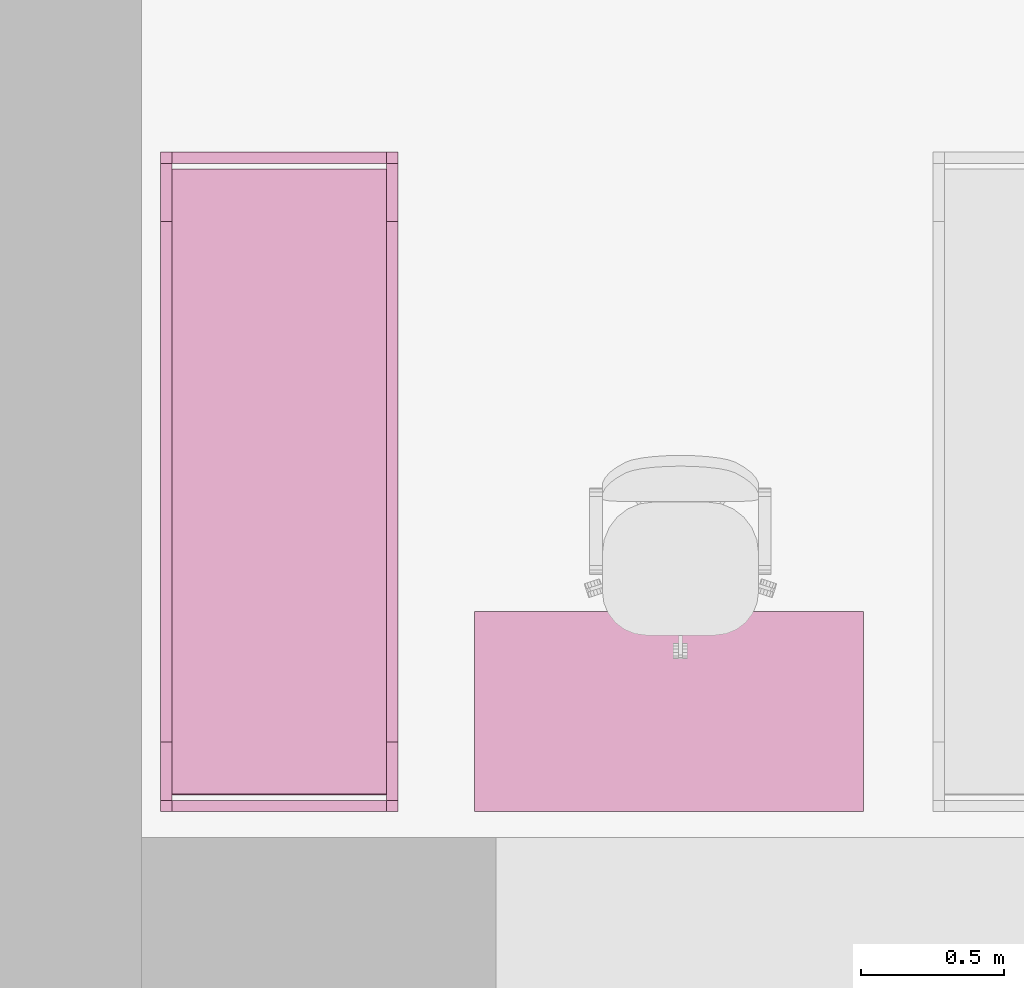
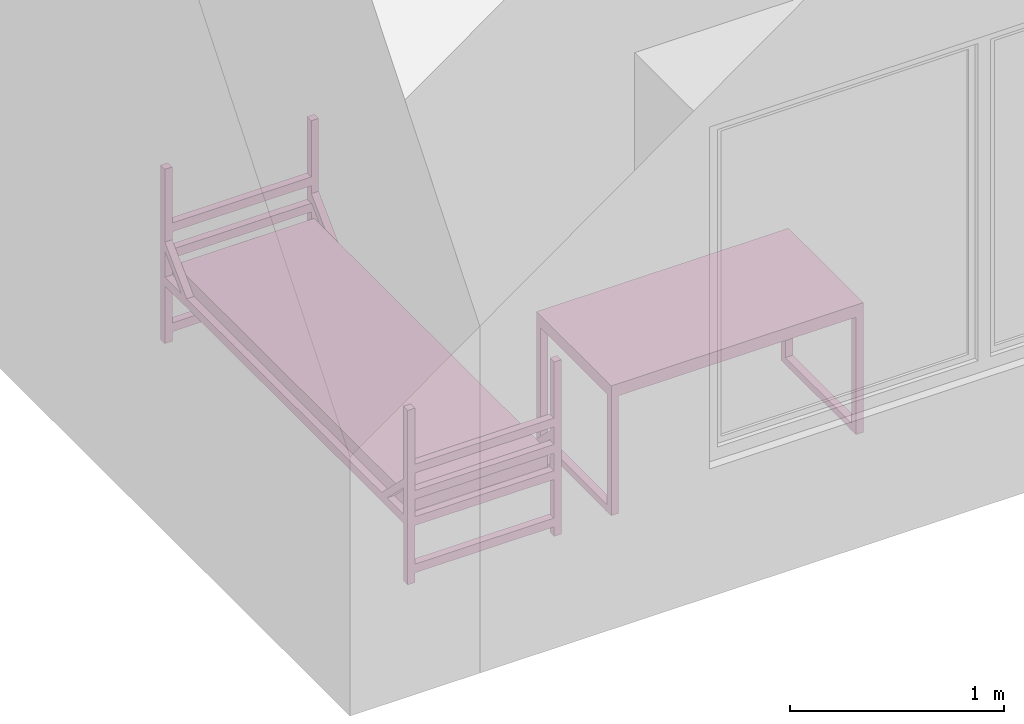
# One storey, part 22 of 48: 2 furnishings.
"""IFC2X3 building model written with IfcOpenShell, lengths in millimetres."""

from ifc_helpers import new_model, entity, si_unit, converted_unit, derived_unit, direction, frame, frame_2d, origin, place, context, subcontext, project, spatial, polyline, circle_curve, parameter, trimmed, segment, composite_curve, rectangle, outline, extrude, faceted_brep, source, transform, mapped, material, material_list, type_object, type_shapes, element, save


model = new_model("IFC2X3")

# Units and contexts
model_context = context("Model", 3, precision=0.01, world=origin(), true_north=direction((6.12303176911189e-17, 1.0)))
body_context = subcontext(model_context, "Body", "Model", "MODEL_VIEW")
ifc_project = project(units=[si_unit("LENGTHUNIT", "METRE", prefix="MILLI"), si_unit("AREAUNIT", "SQUARE_METRE"), si_unit("VOLUMEUNIT", "CUBIC_METRE"), converted_unit("PLANEANGLEUNIT", "DEGREE", entity("IfcRatioMeasure", 0.0174532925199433), si_unit("PLANEANGLEUNIT", "RADIAN"), dimensions=[0, 0, 0, 0, 0, 0, 0]), si_unit("MASSUNIT", "GRAM", prefix="KILO"), derived_unit("MASSDENSITYUNIT", [(si_unit("MASSUNIT", "GRAM", prefix="KILO"), 1), (si_unit("LENGTHUNIT", "METRE"), -3)]), si_unit("TIMEUNIT", "SECOND"), si_unit("FREQUENCYUNIT", "HERTZ"), si_unit("THERMODYNAMICTEMPERATUREUNIT", "DEGREE_CELSIUS"), derived_unit("THERMALTRANSMITTANCEUNIT", [(si_unit("MASSUNIT", "GRAM", prefix="KILO"), 1), (si_unit("THERMODYNAMICTEMPERATUREUNIT", "KELVIN"), -1), (si_unit("TIMEUNIT", "SECOND"), -3)]), derived_unit("VOLUMETRICFLOWRATEUNIT", [(si_unit("LENGTHUNIT", "METRE"), 3), (si_unit("TIMEUNIT", "SECOND"), -1)]), si_unit("ELECTRICCURRENTUNIT", "AMPERE"), si_unit("ELECTRICVOLTAGEUNIT", "VOLT"), si_unit("POWERUNIT", "WATT"), si_unit("FORCEUNIT", "NEWTON", prefix="KILO"), si_unit("ILLUMINANCEUNIT", "LUX"), si_unit("LUMINOUSFLUXUNIT", "LUMEN"), si_unit("LUMINOUSINTENSITYUNIT", "CANDELA"), derived_unit("USERDEFINED", [(si_unit("MASSUNIT", "GRAM", prefix="KILO"), -1), (si_unit("LENGTHUNIT", "METRE"), -2), (si_unit("TIMEUNIT", "SECOND"), 3), (si_unit("LUMINOUSFLUXUNIT", "LUMEN"), 1)]), derived_unit("LINEARVELOCITYUNIT", [(si_unit("LENGTHUNIT", "METRE"), 1), (si_unit("TIMEUNIT", "SECOND"), -1)]), si_unit("PRESSUREUNIT", "PASCAL"), derived_unit("USERDEFINED", [(si_unit("LENGTHUNIT", "METRE"), -2), (si_unit("MASSUNIT", "GRAM", prefix="KILO"), 1), (si_unit("TIMEUNIT", "SECOND"), -2)]), derived_unit("LINEARFORCEUNIT", [(si_unit("MASSUNIT", "GRAM", prefix="KILO"), 1), (si_unit("LENGTHUNIT", "METRE"), 1), (si_unit("TIMEUNIT", "SECOND"), -2), (si_unit("LENGTHUNIT", "METRE"), -1)]), derived_unit("PLANARFORCEUNIT", [(si_unit("MASSUNIT", "GRAM", prefix="KILO"), 1), (si_unit("LENGTHUNIT", "METRE"), 1), (si_unit("TIMEUNIT", "SECOND"), -2), (si_unit("LENGTHUNIT", "METRE"), -2)])], contexts=[model_context])

# Site, building, storey, space
site_placement = place(None, origin())
site = spatial("IfcSite", under=ifc_project, at=site_placement, Name="Default", CompositionType="ELEMENT")
building_placement = place(site_placement, origin())
building = spatial("IfcBuilding", under=site, at=building_placement, Name="SMA ARH", CompositionType="ELEMENT")
storey_placement = place(building_placement, frame((0.0, 0.0, 3300.0)))
storey = spatial("IfcBuildingStorey", under=building, at=storey_placement, Name="2 Korrus", CompositionType="ELEMENT", Elevation=3299.99999999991)
space_placement = place(storey_placement, origin())
space = spatial("IfcSpace", under=storey, at=space_placement, Name="2-15", CompositionType="ELEMENT", InteriorOrExteriorSpace="INTERNAL")

# Furnishings
ifc_material_1 = material(Name="Madrats")
furniture_type_1 = type_object("IfcFurnitureType", Name="Kasarmu voodi ühekordne 2308x830:Kasarmu voodi ühekordne 2308x830", material=ifc_material_1)
shared_shape_1 = source(origin(), body_context, "Body", "SweptSolid", [
    extrude(rectangle(XDim=39.9999999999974, YDim=750.000000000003, at=frame_2d((-1.35003119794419e-13, -2.8421709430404e-14), x_axis=(1.0, 0.0))), frame((1.68638457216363, -1226.7969571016, 55.0), z_axis=(0.0, 0.0, 1.0), x_axis=(0.0, -1.0, 0.0)), (0.0, 0.0, 1.0), 49.9999999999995),
    extrude(rectangle(XDim=39.9999999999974, YDim=750.000000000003, at=frame_2d((-1.35003119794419e-13, -2.8421709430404e-14), x_axis=(1.0, 0.0))), frame((1.68638457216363, -1226.7969571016, 325.0), z_axis=(0.0, 0.0, 1.0), x_axis=(0.0, -1.0, 0.0)), (0.0, 0.0, 1.0), 49.9999999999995),
    extrude(rectangle(XDim=39.9999999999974, YDim=750.000000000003, at=frame_2d((-1.35003119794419e-13, -2.8421709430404e-14), x_axis=(1.0, 0.0))), frame((1.68638457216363, -1226.7969571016, 475.0), z_axis=(0.0, 0.0, 1.0), x_axis=(0.0, -1.0, 0.0)), (0.0, 0.0, 1.0), 49.9999999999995),
    extrude(rectangle(XDim=39.9999999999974, YDim=750.000000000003, at=frame_2d((-1.35003119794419e-13, -2.8421709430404e-14), x_axis=(1.0, 0.0))), frame((1.68638457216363, -1226.7969571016, 625.0), z_axis=(0.0, 0.0, 1.0), x_axis=(0.0, -1.0, 0.0)), (0.0, 0.0, 1.0), 50.0000000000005),
    extrude(rectangle(XDim=39.9999999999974, YDim=750.000000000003, at=frame_2d((1.35003119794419e-13, -2.8421709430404e-14), x_axis=(1.0, 0.0))), frame((1.68638457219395, 1041.2030428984, 55.0), z_axis=(0.0, 0.0, 1.0), x_axis=(0.0, -1.0, 0.0)), (0.0, 0.0, 1.0), 50.0000000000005),
    extrude(rectangle(XDim=39.9999999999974, YDim=750.000000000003, at=frame_2d((1.35003119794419e-13, -2.8421709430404e-14), x_axis=(1.0, 0.0))), frame((1.68638457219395, 1041.2030428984, 325.0), z_axis=(0.0, 0.0, 1.0), x_axis=(0.0, -1.0, 0.0)), (0.0, 0.0, 1.0), 50.0000000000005),
    extrude(rectangle(XDim=39.9999999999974, YDim=750.000000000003, at=frame_2d((1.35003119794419e-13, -2.8421709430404e-14), x_axis=(1.0, 0.0))), frame((1.68638457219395, 1041.2030428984, 475.0), z_axis=(0.0, 0.0, 1.0), x_axis=(0.0, -1.0, 0.0)), (0.0, 0.0, 1.0), 50.0000000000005),
    extrude(rectangle(XDim=39.9999999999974, YDim=750.000000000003, at=frame_2d((1.35003119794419e-13, -2.8421709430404e-14), x_axis=(1.0, 0.0))), frame((1.68638457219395, 1041.2030428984, 625.0), z_axis=(0.0, 0.0, 1.0), x_axis=(0.0, -1.0, 0.0)), (0.0, 0.0, 1.0), 49.9999999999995),
    extrude(outline(composite_curve([segment(trimmed(circle_curve(frame_2d((1085.0, -40.0), x_axis=(1.0, 0.0)), 10.0), [parameter(270.0)], [parameter(0.0)], True, "PARAMETER"), True, "CONTINUOUS"), segment(polyline([(1095.0, -40.0), (1095.0, 40.0)]), True, "CONTINUOUS"), segment(trimmed(circle_curve(frame_2d((1085.0, 40.0), x_axis=(1.0, 0.0)), 10.0), [parameter(0.0)], [parameter(90.0000000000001)], True, "PARAMETER"), True, "CONTINUOUS"), segment(polyline([(1085.0, 50.0), (-1085.0, 50.0)]), True, "CONTINUOUS"), segment(trimmed(circle_curve(frame_2d((-1085.0, 40.0), x_axis=(1.0, 0.0)), 10.0), [parameter(90.0000000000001)], [parameter(180.0)], True, "PARAMETER"), True, "CONTINUOUS"), segment(polyline([(-1095.0, 40.0), (-1095.0, -40.0)]), True, "CONTINUOUS"), segment(trimmed(circle_curve(frame_2d((-1085.0, -40.0), x_axis=(1.0, 0.0)), 10.0), [parameter(180.0)], [parameter(270.0)], True, "PARAMETER"), True, "CONTINUOUS"), segment(polyline([(-1085.0, -50.0), (1085.0, -50.0)]), True, "CONTINUOUS")], self_intersect=False)), frame((-373.313615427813, -92.7969571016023, 405.0), z_axis=(1.0, 0.0, 0.0), x_axis=(0.0, -1.0, 0.0)), (0.0, 0.0, 1.0), 750.000000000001),
    extrude(outline(polyline([(-1114.0, -100.0), (1114.0, -100.0), (1114.0, -50.0), (961.59199141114, -50.0), (1114.0, 100.0), (1114.0, 150.0), (910.789321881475, -50.0), (-910.789321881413, -50.0), (-1114.0, 150.0), (-1114.0, 100.0), (-961.591991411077, -50.0), (-1114.0, -50.0), (-1114.0, -100.0)])), frame((-413.313615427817, -92.7969571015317, 430.0), z_axis=(1.0, 0.0, 0.0), x_axis=(0.0, 1.0, 0.0)), (0.0, 0.0, 1.0), 39.9999999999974),
    extrude(outline(polyline([(-1114.0, -100.0), (1114.0, -100.0), (1114.0, -50.0), (961.591991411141, -50.0), (1114.0, 100.0), (1114.0, 150.0), (910.789321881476, -50.0), (-910.789321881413, -50.0), (-1114.0, 150.0), (-1114.0, 100.0), (-961.591991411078, -50.0), (-1114.0, -50.0), (-1114.0, -100.0)])), frame((376.686384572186, -92.796957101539, 430.0), z_axis=(1.0, 0.0, 0.0), x_axis=(0.0, 1.0, 0.0)), (0.0, 0.0, 1.0), 39.9999999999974),
    extrude(rectangle(XDim=39.9999999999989, YDim=39.9999999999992, at=frame_2d((-6.75015598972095e-14, 0.0), x_axis=(1.0, 0.0))), frame((396.686384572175, -1226.79695710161, 0.0), z_axis=(0.0, 0.0, 1.0), x_axis=(0.0, 1.0, 0.0)), (0.0, 0.0, 1.0), 995.0),
    extrude(rectangle(XDim=39.9999999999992, YDim=39.9999999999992, at=frame_2d((-1.35003119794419e-13, 0.0), x_axis=(1.0, 0.0))), frame((396.686384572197, 1041.20304289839, 0.0), z_axis=(0.0, 0.0, 1.0), x_axis=(0.0, 1.0, 0.0)), (0.0, 0.0, 1.0), 995.0),
    extrude(rectangle(XDim=40.0000000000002, YDim=39.9999999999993, at=frame_2d((-1.35003119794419e-13, 0.0), x_axis=(1.0, 0.0))), frame((-393.313615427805, 1041.2030428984, 0.0), z_axis=(0.0, 0.0, 1.0), x_axis=(0.0, 1.0, 0.0)), (0.0, 0.0, 1.0), 995.0),
    extrude(rectangle(XDim=39.9999999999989, YDim=39.9999999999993, at=frame_2d((-6.75015598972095e-14, 0.0), x_axis=(1.0, 0.0))), frame((-393.313615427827, -1226.7969571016, 0.0), z_axis=(0.0, 0.0, 1.0), x_axis=(0.0, 1.0, 0.0)), (0.0, 0.0, 1.0), 995.0),
])
type_shapes(furniture_type_1, [shared_shape_1])
furnishing_1_placement = place(space_placement, frame((480.0, 1336.79695710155, 0.0)))
element("IfcFurnishingElement", 1, at=furnishing_1_placement, inside=space, type_object=furniture_type_1, material=ifc_material_1, Name="Kasarmu voodi ühekordne 2308x830:Kasarmu voodi ühekordne 2308x830", ObjectType="Kasarmu voodi ühekordne 2308x830:Kasarmu voodi ühekordne 2308x830", context=body_context, shape_type="MappedRepresentation", body=[
    mapped(shared_shape_1, transform((0.0, 0.0, 0.0), scale=1.0)),
])
ifc_material_2 = material(Name="<Unnamed>")
ifc_material_list = material_list([ifc_material_2, ifc_material_2])
furniture_type_2 = type_object("IfcFurnitureType", Name="kirjutuslaud 1360x700mm:kirjutuslaud 1360x700mm", material=ifc_material_list)
shared_shape_2 = source(origin(), body_context, "Body", "Brep", [
    faceted_brep([(680.0, -350.0, 720.0), (680.0, 350.0, 720.0), (680.0, 350.0, 750.0), (680.0, -350.0, 750.0), (-680.0, -350.0, 720.0), (-680.0, -350.0, 750.0), (-680.0, 350.0, 750.0), (-680.0, 350.0, 720.0)], [[[0, 1, 2, 3]], [[4, 5, 6, 7]], [[1, 0, 4, 7]], [[2, 1, 7, 6]], [[3, 2, 6, 5]], [[0, 3, 5, 4]]]),
    faceted_brep([(-640.0, -310.0, 680.0), (-640.0, 310.0, 680.0), (-640.0, 310.0, 720.0), (-640.0, -310.0, 720.0), (-680.0, -350.0, 720.0), (-680.0, 350.0, 720.0), (-680.0, 350.0, 10.0), (-680.0, -350.0, 10.0), (-680.0, 310.0, 680.0), (-680.0, -310.0, 680.0), (-680.0, -310.0, 50.0), (-680.0, 310.0, 50.0), (-640.0, -350.0, 10.0), (-640.0, -350.0, 680.0), (640.0, -350.0, 680.0), (640.0, -350.0, 10.0), (680.0, -350.0, 10.0), (680.0, -350.0, 720.0), (-640.0, 350.0, 10.0), (680.0, 350.0, 720.0), (680.0, 350.0, 10.0), (640.0, 350.0, 10.0), (640.0, 350.0, 680.0), (-640.0, 350.0, 680.0), (640.0, 310.0, 720.0), (640.0, -310.0, 720.0), (-640.0, 310.0, 50.0), (-640.0, -310.0, 50.0), (640.0, -310.0, 680.0), (640.0, 310.0, 680.0), (680.0, 310.0, 680.0), (680.0, 310.0, 50.0), (680.0, -310.0, 50.0), (680.0, -310.0, 680.0), (640.0, -310.0, 50.0), (640.0, 310.0, 50.0)], [[[0, 1, 2, 3]], [[4, 5, 6, 7], [8, 9, 10, 11]], [[4, 7, 12, 13, 14, 15, 16, 17]], [[18, 12, 7, 6]], [[6, 5, 19, 20, 21, 22, 23, 18]], [[19, 5, 4, 17], [2, 24, 25, 3]], [[26, 1, 8, 11]], [[27, 26, 11, 10]], [[0, 27, 10, 9]], [[1, 0, 9, 8]], [[14, 13, 0, 28]], [[24, 2, 1, 29]], [[3, 25, 28, 0]], [[17, 16, 20, 19], [30, 31, 32, 33]], [[21, 15, 14, 28, 34, 35, 29, 22]], [[20, 16, 15, 21]], [[31, 30, 29, 35]], [[32, 31, 35, 34]], [[33, 32, 34, 28]], [[30, 33, 28, 29]], [[29, 28, 25, 24]], [[29, 1, 23, 22]], [[12, 18, 23, 1, 26, 27, 0, 13]]]),
    faceted_brep([(-663.729456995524, -270.466136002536, 0.0), (-659.847171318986, -269.955023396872, 0.0), (-655.964885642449, -270.466136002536, 0.0), (-652.347171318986, -271.964642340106, 0.0), (-649.240569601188, -274.348421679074, 0.0), (-646.85679026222, -277.455023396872, 0.0), (-645.35828392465, -281.072737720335, 0.0), (-644.847171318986, -284.955023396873, 0.0), (-645.35828392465, -288.83730907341, 0.0), (-646.85679026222, -292.455023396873, 0.0), (-649.240569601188, -295.561625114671, 0.0), (-652.347171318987, -297.945404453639, 0.0), (-655.964885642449, -299.443910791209, 0.0), (-659.847171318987, -299.955023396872, 0.0), (-663.729456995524, -299.443910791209, 0.0), (-667.347171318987, -297.945404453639, 0.0), (-670.453773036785, -295.561625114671, 0.0), (-672.837552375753, -292.455023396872, 0.0), (-674.336058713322, -288.83730907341, 0.0), (-674.847171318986, -284.955023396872, 0.0), (-674.336058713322, -281.072737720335, 0.0), (-672.837552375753, -277.455023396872, 0.0), (-670.453773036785, -274.348421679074, 0.0), (-667.347171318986, -271.964642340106, 0.0), (-655.964885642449, -299.443910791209, 10.0), (-652.347171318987, -297.945404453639, 10.0), (-649.240569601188, -295.561625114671, 10.0), (-646.85679026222, -292.455023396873, 10.0), (-645.35828392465, -288.83730907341, 10.0), (-644.847171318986, -284.955023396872, 10.0), (-645.35828392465, -281.072737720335, 10.0), (-646.85679026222, -277.455023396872, 10.0), (-649.240569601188, -274.348421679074, 10.0), (-652.347171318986, -271.964642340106, 10.0), (-655.964885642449, -270.466136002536, 10.0), (-659.847171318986, -269.955023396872, 10.0), (-663.729456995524, -270.466136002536, 10.0), (-667.347171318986, -271.964642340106, 10.0), (-670.453773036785, -274.348421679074, 10.0), (-672.837552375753, -277.455023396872, 10.0), (-674.336058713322, -281.072737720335, 10.0), (-674.847171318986, -284.955023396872, 10.0), (-674.336058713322, -288.83730907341, 10.0), (-672.837552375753, -292.455023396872, 10.0), (-670.453773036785, -295.561625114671, 10.0), (-667.347171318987, -297.945404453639, 10.0), (-663.729456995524, -299.443910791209, 10.0), (-659.847171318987, -299.955023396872, 10.0)], [[[0, 1, 2, 3, 4, 5, 6, 7, 8, 9, 10, 11, 12, 13, 14, 15, 16, 17, 18, 19, 20, 21, 22, 23]], [[24, 25, 26, 27, 28, 29, 30, 31, 32, 33, 34, 35, 36, 37, 38, 39, 40, 41, 42, 43, 44, 45, 46, 47]], [[18, 42, 41, 19]], [[17, 43, 42, 18]], [[45, 44, 16, 15]], [[17, 16, 44, 43]], [[46, 45, 15, 14]], [[47, 46, 14, 13]], [[12, 24, 47, 13]], [[11, 25, 24, 12]], [[27, 26, 10, 9]], [[11, 10, 26, 25]], [[28, 27, 9, 8]], [[29, 28, 8, 7]], [[6, 30, 29, 7]], [[5, 31, 30, 6]], [[33, 32, 4, 3]], [[5, 4, 32, 31]], [[34, 33, 3, 2]], [[35, 34, 2, 1]], [[0, 36, 35, 1]], [[23, 37, 36, 0]], [[39, 38, 22, 21]], [[23, 22, 38, 37]], [[40, 39, 21, 20]], [[41, 40, 20, 19]]]),
    faceted_brep([(-655.964885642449, 270.466136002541, 10.0), (-652.347171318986, 271.964642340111, 10.0), (-649.240569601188, 274.348421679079, 10.0), (-646.85679026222, 277.455023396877, 10.0), (-645.35828392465, 281.07273772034, 10.0), (-644.847171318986, 284.955023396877, 10.0), (-645.35828392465, 288.837309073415, 10.0), (-646.85679026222, 292.455023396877, 10.0), (-649.240569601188, 295.561625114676, 10.0), (-652.347171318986, 297.945404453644, 10.0), (-655.964885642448, 299.443910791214, 10.0), (-659.847171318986, 299.955023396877, 10.0), (-663.729456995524, 299.443910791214, 10.0), (-667.347171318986, 297.945404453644, 10.0), (-670.453773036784, 295.561625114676, 10.0), (-672.837552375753, 292.455023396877, 10.0), (-674.336058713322, 288.837309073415, 10.0), (-674.847171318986, 284.955023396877, 10.0), (-674.336058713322, 281.07273772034, 10.0), (-672.837552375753, 277.455023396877, 10.0), (-670.453773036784, 274.348421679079, 10.0), (-667.347171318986, 271.964642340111, 10.0), (-663.729456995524, 270.466136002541, 10.0), (-659.847171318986, 269.955023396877, 10.0), (-655.964885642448, 299.443910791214, 0.0), (-652.347171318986, 297.945404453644, 0.0), (-649.240569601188, 295.561625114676, 0.0), (-646.85679026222, 292.455023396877, 0.0), (-645.35828392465, 288.837309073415, 0.0), (-644.847171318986, 284.955023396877, 0.0), (-645.35828392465, 281.07273772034, 0.0), (-646.85679026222, 277.455023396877, 0.0), (-649.240569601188, 274.348421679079, 0.0), (-652.347171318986, 271.964642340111, 0.0), (-655.964885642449, 270.466136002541, 0.0), (-659.847171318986, 269.955023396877, 0.0), (-663.729456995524, 270.466136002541, 0.0), (-667.347171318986, 271.964642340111, 0.0), (-670.453773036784, 274.348421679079, 0.0), (-672.837552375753, 277.455023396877, 0.0), (-674.336058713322, 281.07273772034, 0.0), (-674.847171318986, 284.955023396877, 0.0), (-674.336058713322, 288.837309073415, 0.0), (-672.837552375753, 292.455023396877, 0.0), (-670.453773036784, 295.561625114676, 0.0), (-667.347171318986, 297.945404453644, 0.0), (-663.729456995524, 299.443910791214, 0.0), (-659.847171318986, 299.955023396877, 0.0)], [[[0, 1, 2, 3, 4, 5, 6, 7, 8, 9, 10, 11, 12, 13, 14, 15, 16, 17, 18, 19, 20, 21, 22, 23]], [[24, 25, 26, 27, 28, 29, 30, 31, 32, 33, 34, 35, 36, 37, 38, 39, 40, 41, 42, 43, 44, 45, 46, 47]], [[40, 18, 17, 41]], [[39, 19, 18, 40]], [[21, 20, 38, 37]], [[39, 38, 20, 19]], [[22, 21, 37, 36]], [[23, 22, 36, 35]], [[34, 0, 23, 35]], [[33, 1, 0, 34]], [[3, 2, 32, 31]], [[33, 32, 2, 1]], [[4, 3, 31, 30]], [[5, 4, 30, 29]], [[28, 6, 5, 29]], [[27, 7, 6, 28]], [[9, 8, 26, 25]], [[27, 26, 8, 7]], [[10, 9, 25, 24]], [[11, 10, 24, 47]], [[46, 12, 11, 47]], [[45, 13, 12, 46]], [[15, 14, 44, 43]], [[45, 44, 14, 13]], [[16, 15, 43, 42]], [[17, 16, 42, 41]]]),
    faceted_brep([(656.270543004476, -270.466136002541, 0.0), (660.152828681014, -269.955023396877, 0.0), (664.035114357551, -270.466136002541, 0.0), (667.652828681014, -271.96464234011, 0.0), (670.759430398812, -274.348421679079, 0.0), (673.14320973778, -277.455023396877, 0.0), (674.64171607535, -281.072737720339, 0.0), (675.152828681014, -284.955023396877, 0.0), (674.64171607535, -288.837309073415, 0.0), (673.14320973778, -292.455023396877, 0.0), (670.759430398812, -295.561625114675, 0.0), (667.652828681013, -297.945404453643, 0.0), (664.035114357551, -299.443910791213, 0.0), (660.152828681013, -299.955023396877, 0.0), (656.270543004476, -299.443910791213, 0.0), (652.652828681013, -297.945404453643, 0.0), (649.546226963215, -295.561625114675, 0.0), (647.162447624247, -292.455023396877, 0.0), (645.663941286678, -288.837309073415, 0.0), (645.152828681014, -284.955023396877, 0.0), (645.663941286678, -281.072737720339, 0.0), (647.162447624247, -277.455023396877, 0.0), (649.546226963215, -274.348421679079, 0.0), (652.652828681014, -271.96464234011, 0.0), (664.035114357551, -299.443910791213, 10.0), (667.652828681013, -297.945404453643, 10.0), (670.759430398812, -295.561625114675, 10.0), (673.14320973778, -292.455023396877, 10.0), (674.64171607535, -288.837309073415, 10.0), (675.152828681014, -284.955023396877, 10.0), (674.64171607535, -281.072737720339, 10.0), (673.14320973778, -277.455023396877, 10.0), (670.759430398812, -274.348421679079, 10.0), (667.652828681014, -271.96464234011, 10.0), (664.035114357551, -270.466136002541, 10.0), (660.152828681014, -269.955023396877, 10.0), (656.270543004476, -270.466136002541, 10.0), (652.652828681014, -271.96464234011, 10.0), (649.546226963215, -274.348421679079, 10.0), (647.162447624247, -277.455023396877, 10.0), (645.663941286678, -281.072737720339, 10.0), (645.152828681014, -284.955023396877, 10.0), (645.663941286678, -288.837309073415, 10.0), (647.162447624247, -292.455023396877, 10.0), (649.546226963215, -295.561625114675, 10.0), (652.652828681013, -297.945404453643, 10.0), (656.270543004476, -299.443910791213, 10.0), (660.152828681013, -299.955023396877, 10.0)], [[[0, 1, 2, 3, 4, 5, 6, 7, 8, 9, 10, 11, 12, 13, 14, 15, 16, 17, 18, 19, 20, 21, 22, 23]], [[24, 25, 26, 27, 28, 29, 30, 31, 32, 33, 34, 35, 36, 37, 38, 39, 40, 41, 42, 43, 44, 45, 46, 47]], [[18, 42, 41, 19]], [[17, 43, 42, 18]], [[45, 44, 16, 15]], [[17, 16, 44, 43]], [[46, 45, 15, 14]], [[47, 46, 14, 13]], [[12, 24, 47, 13]], [[11, 25, 24, 12]], [[27, 26, 10, 9]], [[11, 10, 26, 25]], [[28, 27, 9, 8]], [[29, 28, 8, 7]], [[6, 30, 29, 7]], [[5, 31, 30, 6]], [[33, 32, 4, 3]], [[5, 4, 32, 31]], [[34, 33, 3, 2]], [[35, 34, 2, 1]], [[0, 36, 35, 1]], [[23, 37, 36, 0]], [[39, 38, 22, 21]], [[23, 22, 38, 37]], [[40, 39, 21, 20]], [[41, 40, 20, 19]]]),
    faceted_brep([(664.035114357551, 270.466136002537, 10.0), (667.652828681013, 271.964642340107, 10.0), (670.759430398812, 274.348421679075, 10.0), (673.14320973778, 277.455023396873, 10.0), (674.64171607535, 281.072737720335, 10.0), (675.152828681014, 284.955023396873, 10.0), (674.64171607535, 288.837309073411, 10.0), (673.14320973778, 292.455023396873, 10.0), (670.759430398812, 295.561625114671, 10.0), (667.652828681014, 297.94540445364, 10.0), (664.035114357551, 299.443910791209, 10.0), (660.152828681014, 299.955023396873, 10.0), (656.270543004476, 299.443910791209, 10.0), (652.652828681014, 297.94540445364, 10.0), (649.546226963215, 295.561625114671, 10.0), (647.162447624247, 292.455023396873, 10.0), (645.663941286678, 288.837309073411, 10.0), (645.152828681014, 284.955023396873, 10.0), (645.663941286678, 281.072737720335, 10.0), (647.162447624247, 277.455023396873, 10.0), (649.546226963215, 274.348421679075, 10.0), (652.652828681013, 271.964642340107, 10.0), (656.270543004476, 270.466136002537, 10.0), (660.152828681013, 269.955023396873, 10.0), (664.035114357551, 299.443910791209, 0.0), (667.652828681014, 297.94540445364, 0.0), (670.759430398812, 295.561625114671, 0.0), (673.14320973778, 292.455023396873, 0.0), (674.64171607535, 288.837309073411, 0.0), (675.152828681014, 284.955023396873, 0.0), (674.64171607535, 281.072737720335, 0.0), (673.14320973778, 277.455023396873, 0.0), (670.759430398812, 274.348421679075, 0.0), (667.652828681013, 271.964642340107, 0.0), (664.035114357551, 270.466136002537, 0.0), (660.152828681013, 269.955023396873, 0.0), (656.270543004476, 270.466136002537, 0.0), (652.652828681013, 271.964642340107, 0.0), (649.546226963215, 274.348421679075, 0.0), (647.162447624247, 277.455023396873, 0.0), (645.663941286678, 281.072737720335, 0.0), (645.152828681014, 284.955023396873, 0.0), (645.663941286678, 288.837309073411, 0.0), (647.162447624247, 292.455023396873, 0.0), (649.546226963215, 295.561625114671, 0.0), (652.652828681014, 297.94540445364, 0.0), (656.270543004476, 299.443910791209, 0.0), (660.152828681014, 299.955023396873, 0.0)], [[[0, 1, 2, 3, 4, 5, 6, 7, 8, 9, 10, 11, 12, 13, 14, 15, 16, 17, 18, 19, 20, 21, 22, 23]], [[24, 25, 26, 27, 28, 29, 30, 31, 32, 33, 34, 35, 36, 37, 38, 39, 40, 41, 42, 43, 44, 45, 46, 47]], [[40, 18, 17, 41]], [[39, 19, 18, 40]], [[21, 20, 38, 37]], [[39, 38, 20, 19]], [[22, 21, 37, 36]], [[23, 22, 36, 35]], [[34, 0, 23, 35]], [[33, 1, 0, 34]], [[3, 2, 32, 31]], [[33, 32, 2, 1]], [[4, 3, 31, 30]], [[5, 4, 30, 29]], [[28, 6, 5, 29]], [[27, 7, 6, 28]], [[9, 8, 26, 25]], [[27, 26, 8, 7]], [[10, 9, 25, 24]], [[11, 10, 24, 47]], [[46, 12, 11, 47]], [[45, 13, 12, 46]], [[15, 14, 44, 43]], [[45, 44, 14, 13]], [[16, 15, 43, 42]], [[17, 16, 42, 41]]]),
])
type_shapes(furniture_type_2, [shared_shape_2])
furnishing_2_placement = place(space_placement, frame((1845.50000000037, 440.0, 0.0)))
element("IfcFurnishingElement", 2, at=furnishing_2_placement, inside=space, type_object=furniture_type_2, Name="kirjutuslaud 1360x700mm:kirjutuslaud 1360x700mm", ObjectType="kirjutuslaud 1360x700mm:kirjutuslaud 1360x700mm", context=body_context, shape_type="MappedRepresentation", body=[
    mapped(shared_shape_2, transform((0.0, 0.0, 0.0), scale=1.0)),
])

save(model, "model.ifc")
